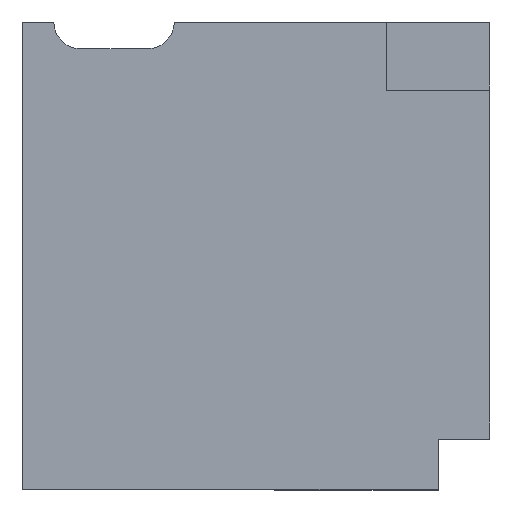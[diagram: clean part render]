
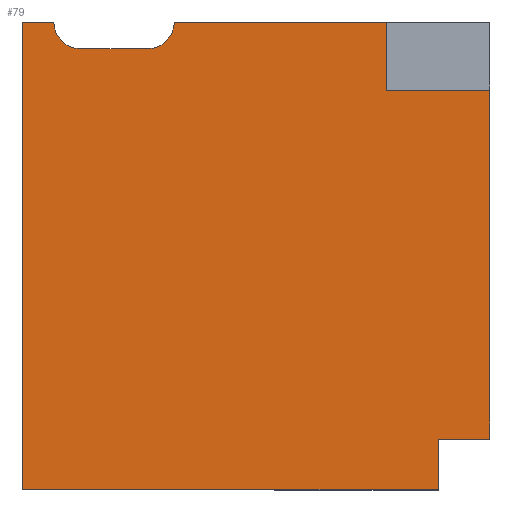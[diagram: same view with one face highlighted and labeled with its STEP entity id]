
A CAD part, top view. The second image highlights one B-rep face of the part: STEP entity #79.
In plain terms, the highlighted planar face has unit normal (0, 0, 1).
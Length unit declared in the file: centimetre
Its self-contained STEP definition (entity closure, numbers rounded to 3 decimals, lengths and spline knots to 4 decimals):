
#30 = LINE ( 'NONE', #760, #84 ) ;
#46 = VECTOR ( 'NONE', #179, 100. ) ;
#47 = DIRECTION ( 'NONE',  ( 1., 0., 0. ) ) ;
#53 = ORIENTED_EDGE ( 'NONE', *, *, #424, .T. ) ;
#79 = ADVANCED_FACE ( 'NONE', ( #884 ), #391, .T. ) ;
#80 = DIRECTION ( 'NONE',  ( -1., 0., 0. ) ) ;
#84 = VECTOR ( 'NONE', #47, 100. ) ;
#90 = CARTESIAN_POINT ( 'NONE',  ( 0., 0., 1000. ) ) ;
#108 = CARTESIAN_POINT ( 'NONE',  ( 0., 1000., 1000. ) ) ;
#110 = CARTESIAN_POINT ( 'NONE',  ( 0., 1000., 1000. ) ) ;
#125 = EDGE_CURVE ( 'NONE', #475, #625, #170, .T. ) ;
#126 = CARTESIAN_POINT ( 'NONE',  ( 0., 1000., 1000. ) ) ;
#146 = CARTESIAN_POINT ( 'NONE',  ( 1000., 853.1237, 1000. ) ) ;
#148 = ORIENTED_EDGE ( 'NONE', *, *, #890, .T. ) ;
#153 = CIRCLE ( 'NONE', #680, 57.3684 ) ;
#157 = LINE ( 'NONE', #730, #220 ) ;
#158 = EDGE_CURVE ( 'NONE', #746, #857, #920, .T. ) ;
#162 = ORIENTED_EDGE ( 'NONE', *, *, #751, .F. ) ;
#164 = CARTESIAN_POINT ( 'NONE',  ( 267.6801, 1000., 1000. ) ) ;
#167 = ORIENTED_EDGE ( 'NONE', *, *, #585, .F. ) ;
#169 = VERTEX_POINT ( 'NONE', #274 ) ;
#170 = CIRCLE ( 'NONE', #439, 57.3684 ) ;
#172 = EDGE_CURVE ( 'NONE', #580, #762, #693, .T. ) ;
#174 = VERTEX_POINT ( 'NONE', #565 ) ;
#179 = DIRECTION ( 'NONE',  ( 1., 0., 0. ) ) ;
#194 = CARTESIAN_POINT ( 'NONE',  ( 0., 0., 1000. ) ) ;
#210 = VERTEX_POINT ( 'NONE', #616 ) ;
#220 = VECTOR ( 'NONE', #231, 100. ) ;
#227 = LINE ( 'NONE', #657, #827 ) ;
#231 = DIRECTION ( 'NONE',  ( 0., 1., 0. ) ) ;
#244 = EDGE_CURVE ( 'NONE', #169, #210, #408, .T. ) ;
#260 = CARTESIAN_POINT ( 'NONE',  ( 124.7642, 1000., 1000. ) ) ;
#267 = DIRECTION ( 'NONE',  ( 0., -1., 0. ) ) ;
#274 = CARTESIAN_POINT ( 'NONE',  ( 779.5484, 1000., 1000. ) ) ;
#286 = ORIENTED_EDGE ( 'NONE', *, *, #172, .F. ) ;
#356 = DIRECTION ( 'NONE',  ( 1., 0., 0. ) ) ;
#369 = ORIENTED_EDGE ( 'NONE', *, *, #561, .F. ) ;
#390 = CARTESIAN_POINT ( 'NONE',  ( 325.0485, 1000., 1000. ) ) ;
#391 = PLANE ( 'NONE',  #443 ) ;
#397 = DIRECTION ( 'NONE',  ( -1., 0., 0. ) ) ;
#408 = LINE ( 'NONE', #698, #567 ) ;
#412 = VERTEX_POINT ( 'NONE', #448 ) ;
#424 = EDGE_CURVE ( 'NONE', #169, #625, #227, .T. ) ;
#425 = CARTESIAN_POINT ( 'NONE',  ( 890.0206, 107.6266, 1000. ) ) ;
#427 = ORIENTED_EDGE ( 'NONE', *, *, #631, .F. ) ;
#433 = LINE ( 'NONE', #90, #476 ) ;
#439 = AXIS2_PLACEMENT_3D ( 'NONE', #164, #459, #465 ) ;
#443 = AXIS2_PLACEMENT_3D ( 'NONE', #589, #682, #897 ) ;
#448 = CARTESIAN_POINT ( 'NONE',  ( 124.7642, 942.6316, 1000. ) ) ;
#454 = VECTOR ( 'NONE', #397, 100. ) ;
#458 = LINE ( 'NONE', #620, #474 ) ;
#459 = DIRECTION ( 'NONE',  ( 0., 0., 1. ) ) ;
#465 = DIRECTION ( 'NONE',  ( 1., 0., 0. ) ) ;
#474 = VECTOR ( 'NONE', #743, 100. ) ;
#475 = VERTEX_POINT ( 'NONE', #939 ) ;
#476 = VECTOR ( 'NONE', #356, 100. ) ;
#479 = DIRECTION ( 'NONE',  ( -1., 0., 0. ) ) ;
#485 = CARTESIAN_POINT ( 'NONE',  ( 890.0206, 107.6266, 1000. ) ) ;
#506 = EDGE_CURVE ( 'NONE', #580, #899, #157, .T. ) ;
#539 = LINE ( 'NONE', #888, #46 ) ;
#561 = EDGE_CURVE ( 'NONE', #412, #475, #539, .T. ) ;
#565 = CARTESIAN_POINT ( 'NONE',  ( 890.0206, 0., 1000. ) ) ;
#567 = VECTOR ( 'NONE', #267, 100. ) ;
#580 = VERTEX_POINT ( 'NONE', #838 ) ;
#585 = EDGE_CURVE ( 'NONE', #762, #174, #458, .T. ) ;
#589 = CARTESIAN_POINT ( 'NONE',  ( 0., 0., 1000. ) ) ;
#606 = VERTEX_POINT ( 'NONE', #672 ) ;
#616 = CARTESIAN_POINT ( 'NONE',  ( 779.5484, 853.1237, 1000. ) ) ;
#620 = CARTESIAN_POINT ( 'NONE',  ( 890.0206, 0., 1000. ) ) ;
#625 = VERTEX_POINT ( 'NONE', #390 ) ;
#631 = EDGE_CURVE ( 'NONE', #210, #899, #30, .T. ) ;
#638 = ORIENTED_EDGE ( 'NONE', *, *, #125, .F. ) ;
#657 = CARTESIAN_POINT ( 'NONE',  ( 0., 1000., 1000. ) ) ;
#672 = CARTESIAN_POINT ( 'NONE',  ( 67.3957, 1000., 1000. ) ) ;
#680 = AXIS2_PLACEMENT_3D ( 'NONE', #260, #851, #903 ) ;
#682 = DIRECTION ( 'NONE',  ( 0., 0., 1. ) ) ;
#685 = ORIENTED_EDGE ( 'NONE', *, *, #506, .T. ) ;
#689 = EDGE_LOOP ( 'NONE', ( #893, #53, #638, #369, #162, #780, #768, #148, #167, #286, #685, #427 ) ) ;
#693 = LINE ( 'NONE', #485, #845 ) ;
#698 = CARTESIAN_POINT ( 'NONE',  ( 779.5484, 853.1237, 1000. ) ) ;
#706 = DIRECTION ( 'NONE',  ( 0., -1., 0. ) ) ;
#727 = EDGE_CURVE ( 'NONE', #606, #746, #755, .T. ) ;
#730 = CARTESIAN_POINT ( 'NONE',  ( 1000., 1000., 1000. ) ) ;
#743 = DIRECTION ( 'NONE',  ( 0., -1., 0. ) ) ;
#746 = VERTEX_POINT ( 'NONE', #110 ) ;
#751 = EDGE_CURVE ( 'NONE', #606, #412, #153, .T. ) ;
#755 = LINE ( 'NONE', #108, #454 ) ;
#760 = CARTESIAN_POINT ( 'NONE',  ( 779.5484, 853.1237, 1000. ) ) ;
#762 = VERTEX_POINT ( 'NONE', #425 ) ;
#768 = ORIENTED_EDGE ( 'NONE', *, *, #158, .T. ) ;
#780 = ORIENTED_EDGE ( 'NONE', *, *, #727, .T. ) ;
#827 = VECTOR ( 'NONE', #80, 100. ) ;
#838 = CARTESIAN_POINT ( 'NONE',  ( 1000., 107.6266, 1000. ) ) ;
#845 = VECTOR ( 'NONE', #479, 100. ) ;
#851 = DIRECTION ( 'NONE',  ( 0., 0., 1. ) ) ;
#857 = VERTEX_POINT ( 'NONE', #194 ) ;
#884 = FACE_OUTER_BOUND ( 'NONE', #689, .T. ) ;
#888 = CARTESIAN_POINT ( 'NONE',  ( 124.7642, 942.6316, 1000. ) ) ;
#890 = EDGE_CURVE ( 'NONE', #857, #174, #433, .T. ) ;
#893 = ORIENTED_EDGE ( 'NONE', *, *, #244, .F. ) ;
#897 = DIRECTION ( 'NONE',  ( 1., 0., 0. ) ) ;
#899 = VERTEX_POINT ( 'NONE', #146 ) ;
#903 = DIRECTION ( 'NONE',  ( 1., 0., 0. ) ) ;
#920 = LINE ( 'NONE', #126, #934 ) ;
#934 = VECTOR ( 'NONE', #706, 100. ) ;
#939 = CARTESIAN_POINT ( 'NONE',  ( 267.6801, 942.6316, 1000. ) ) ;
